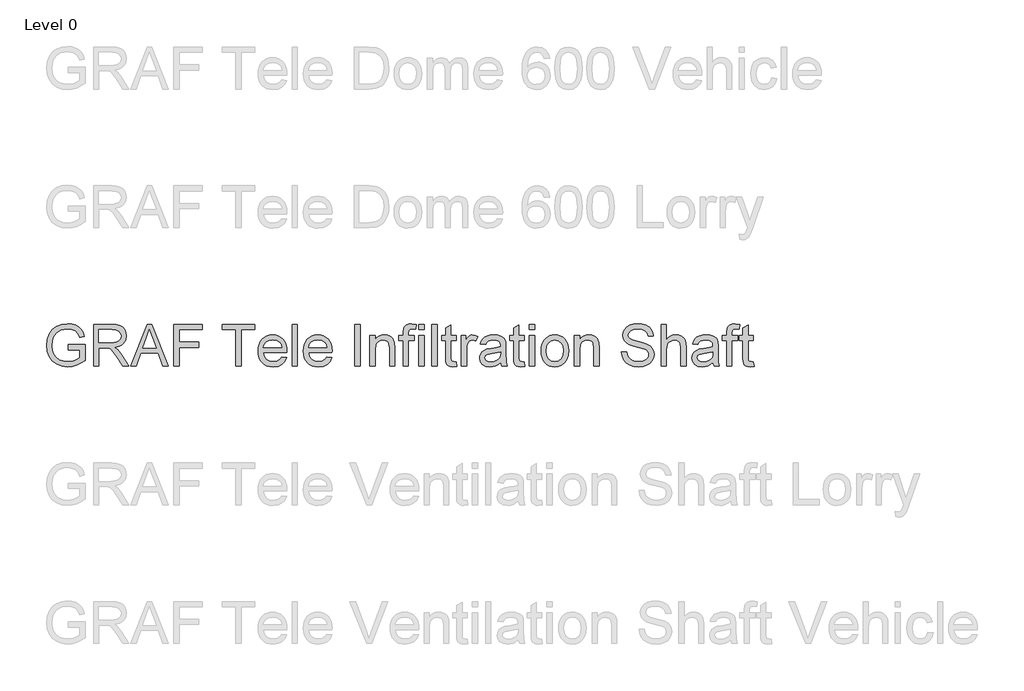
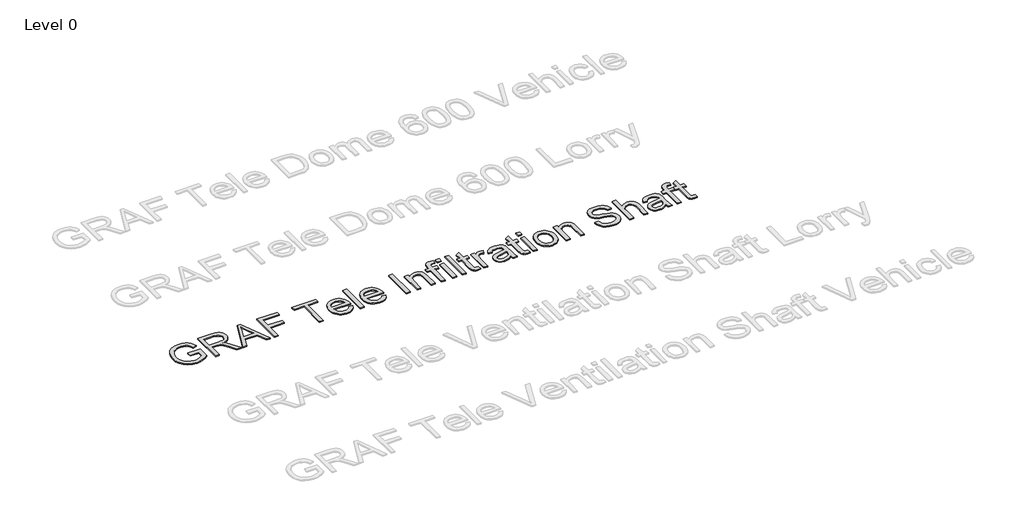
# One storey, part 17 of 25: 1 proxy.
"""IFC4 building model written with IfcOpenShell, lengths in millimetres."""

from ifc_helpers import new_model, si_unit, origin, origin_with_axes, place, context, project, spatial, polyline, outline, extrude, element, save

model = new_model("IFC4")

# Units and contexts
model_context = context("Model", 3, world=origin())
ifc_project = project(units=[si_unit("LENGTHUNIT", "METRE", prefix="MILLI")], contexts=[model_context])

# Site, building, storey
site = spatial("IfcSite", under=ifc_project)
building = spatial("IfcBuilding", under=site)
storey = spatial("IfcBuildingStorey", under=building, Name="Level 0", Elevation=0.0)

# Proxy
placement = place(None, origin())
element("IfcBuildingElementProxy", 1, Name="300mm Arial", ObjectType="300mm Arial", at=placement, inside=storey, context=model_context, shape_type="SweptSolid", body=[
    extrude(outline(polyline([(-15240.9940387, 3916.7454403), (-15240.9940387, 3954.4165566), (-15118.5629107, 3954.4165566), (-15118.5629107, 3841.7710897), (-15148.3153671, 3821.0777274), (-15179.0059225, 3806.2336889), (-15210.5610007, 3797.2941564), (-15242.9070251, 3794.3143123), (-15285.1674693, 3799.050793), (-15323.3628175, 3813.260235), (-15355.0926395, 3836.4459978), (-15377.9565055, 3868.1114405), (-15391.7796715, 3906.0952565), (-15396.3873935, 3948.2361391), (-15391.7980656, 3990.6805243), (-15378.0300819, 4030.1634594), (-15355.6536596, 4063.282036), (-15325.2390156, 4086.6333457), (-15288.1932987, 4100.4841028), (-15245.9236575, 4105.1010218), (-15214.8928112, 4102.4246803), (-15186.9889618, 4094.3956557), (-15163.4904994, 4081.5933623), (-15145.6758138, 4064.5972141), (-15132.4964413, 4042.5886738), (-15122.9039183, 4014.7492038), (-15157.6319786, 4004.9635427), (-15165.3850917, 4024.8199734), (-15174.8120678, 4039.8019677), (-15187.2832674, 4051.0959449), (-15204.169051, 4059.8883246), (-15224.3013932, 4065.5445103), (-15246.5122687, 4067.4299055), (-15272.5123287, 4065.3973575), (-15294.7415982, 4059.2997134), (-15313.1173039, 4049.9003284), (-15327.5566722, 4037.9625577), (-15346.9440533, 4008.9366683), (-15355.7732212, 3980.49939), (-15358.7162772, 3949.7812434), (-15355.175413, 3913.7563991), (-15344.5528204, 3884.1143073), (-15327.1703961, 3861.0665003), (-15303.3500369, 3844.8245102), (-15275.4737787, 3835.195199), (-15245.9236575, 3831.9854286), (-15219.831627, 3834.4042527), (-15194.3833899, 3841.6607251), (-15172.2828791, 3851.6579183), (-15156.234027, 3862.298905), (-15156.234027, 3916.7454403), (-15240.9940387, 3916.7454403)])), origin_with_axes(), (0.0, 0.0, 1.0), 10.0),
    extrude(outline(polyline([(-15057.3473467, 3799.0232018), (-15057.3473467, 4100.3921323), (-14927.4850024, 4100.3921323), (-14892.5821982, 4098.3595842), (-14867.1891434, 4092.2619402), (-14848.6294968, 4081.0047511), (-14834.2269167, 4063.4935682), (-14824.9838815, 4041.7793334), (-14821.9028698, 4017.912989), (-14827.0072325, 3988.2249119), (-14842.3203206, 3963.6136065), (-14853.9200997, 3953.5842236), (-14868.3019865, 3945.5689946), (-14905.4120827, 3935.5809984), (-14884.0013506, 3919.467767), (-14853.467145, 3880.6930048), (-14803.2144645, 3799.0232018), (-14846.9924219, 3799.0232018), (-14886.2086426, 3861.4895646), (-14914.5355562, 3902.8395009), (-14934.4379722, 3922.3740348), (-14952.3538253, 3929.5477337), (-14974.2060158, 3930.8721089), (-15019.6762304, 3930.8721089), (-15019.6762304, 3799.0232018), (-15057.3473467, 3799.0232018)]), holes=[polyline([(-15019.6762304, 3968.5432252), (-14935.3576771, 3968.5432252), (-14911.1418448, 3969.8767974), (-14892.3522719, 3973.8775141), (-14878.2072092, 3980.8120897), (-14867.9249074, 3990.9472387), (-14861.6617165, 4003.2069062), (-14859.5739861, 4016.5150374), (-14863.5563087, 4034.890743), (-14875.5032765, 4049.6979933), (-14896.058683, 4059.4652603), (-14925.8663217, 4062.721016), (-15019.6762304, 4062.721016), (-15019.6762304, 3968.5432252)])]), origin_with_axes(), (0.0, 0.0, 1.0), 10.0),
    extrude(outline(polyline([(-14791.0743586, 3799.0232018), (-14670.7769462, 4100.3921323), (-14638.6976362, 4100.3921323), (-14518.4002238, 3799.0232018), (-14558.2050557, 3799.0232018), (-14592.7123868, 3893.2009926), (-14716.835772, 3893.2009926), (-14751.2695268, 3799.0232018), (-14791.0743586, 3799.0232018)]), holes=[polyline([(-14703.003409, 3930.8721089), (-14606.4711735, 3930.8721089), (-14633.6208647, 4004.9635427), (-14654.7372912, 4062.721016), (-14673.499273, 4011.4382658), (-14703.003409, 3930.8721089)])]), origin_with_axes(), (0.0, 0.0, 1.0), 10.0),
    extrude(outline(polyline([(-14478.1539335, 3799.0232018), (-14478.1539335, 4100.3921323), (-14275.6716834, 4100.3921323), (-14275.6716834, 4062.721016), (-14440.4828172, 4062.721016), (-14440.4828172, 3973.2521147), (-14299.2161311, 3973.2521147), (-14299.2161311, 3935.5809984), (-14440.4828172, 3935.5809984), (-14440.4828172, 3799.0232018), (-14478.1539335, 3799.0232018)])), origin_with_axes(), (0.0, 0.0, 1.0), 10.0),
    extrude(outline(polyline([(-14030.8094274, 3799.0232018), (-14030.8094274, 4062.721016), (-14129.6961077, 4062.721016), (-14129.6961077, 4100.3921323), (-13894.2516308, 4100.3921323), (-13894.2516308, 4062.721016), (-13993.1383111, 4062.721016), (-13993.1383111, 3799.0232018), (-14030.8094274, 3799.0232018)])), origin_with_axes(), (0.0, 0.0, 1.0), 10.0),
    extrude(outline(polyline([(-13701.6286181, 3864.9476554), (-13664.6932658, 3860.2387658), (-13678.001397, 3832.4084929), (-13699.2373851, 3811.6047661), (-13727.9229837, 3798.6369257), (-13763.5799461, 3794.3143123), (-13786.9542484, 3796.1790141), (-13807.7809678, 3801.7731197), (-13826.0601045, 3811.0966291), (-13841.7916583, 3824.1495421), (-13854.4422004, 3840.5685754), (-13863.4783019, 3859.9904455), (-13868.8999628, 3882.4151523), (-13870.7071831, 3907.842696), (-13868.8815687, 3934.1324631), (-13863.4047255, 3957.3044302), (-13854.2766535, 3977.3585975), (-13841.4973527, 3994.2949649), (-13825.8071856, 4007.7502488), (-13807.9465147, 4017.361166), (-13787.9153401, 4023.1277162), (-13765.7136617, 4025.0498997), (-13744.2270539, 4023.1323148), (-13724.7959868, 4017.3795601), (-13707.4204603, 4007.7916356), (-13692.1004744, 3994.3685413), (-13679.5947859, 3977.4689621), (-13670.6621512, 3957.451583), (-13665.3025704, 3934.3164041), (-13663.5160434, 3908.0634252), (-13663.7367726, 3897.9098821), (-13833.0360668, 3897.9098821), (-13826.5153584, 3869.7117272), (-13811.3678173, 3848.9815768), (-13789.5064297, 3836.2344656), (-13762.8441821, 3831.9854286), (-13742.7946134, 3833.9535973), (-13725.9088298, 3839.8581033), (-13712.1868314, 3850.0668287), (-13701.6286181, 3864.9476554)]), holes=[polyline([(-13833.0360668, 3935.5809984), (-13701.1871597, 3935.5809984), (-13706.2823254, 3955.4834144), (-13716.2703215, 3969.7204476), (-13738.2328766, 3982.9641994), (-13765.8608145, 3987.3787834), (-13791.2538692, 3983.8563132), (-13812.2507341, 3973.2889029), (-13826.8464522, 3956.8169866), (-13833.0360668, 3935.5809984)])]), origin_with_axes(), (0.0, 0.0, 1.0), 10.0),
    extrude(outline(polyline([(-13625.8449271, 3799.0232018), (-13625.8449271, 4100.3921323), (-13588.1738108, 4100.3921323), (-13588.1738108, 3799.0232018), (-13625.8449271, 3799.0232018)])), origin_with_axes(), (0.0, 0.0, 1.0), 10.0),
    extrude(outline(polyline([(-13376.71524, 3864.9476554), (-13339.7798877, 3860.2387658), (-13353.0880188, 3832.4084929), (-13374.324007, 3811.6047661), (-13403.0096056, 3798.6369257), (-13438.666568, 3794.3143123), (-13462.0408702, 3796.1790141), (-13482.8675897, 3801.7731197), (-13501.1467263, 3811.0966291), (-13516.8782801, 3824.1495421), (-13529.5288222, 3840.5685754), (-13538.5649238, 3859.9904455), (-13543.9865847, 3882.4151523), (-13545.793805, 3907.842696), (-13543.9681906, 3934.1324631), (-13538.4913474, 3957.3044302), (-13529.3632754, 3977.3585975), (-13516.5839745, 3994.2949649), (-13500.8938074, 4007.7502488), (-13483.0331366, 4017.361166), (-13463.0019619, 4023.1277162), (-13440.8002835, 4025.0498997), (-13419.3136758, 4023.1323148), (-13399.8826086, 4017.3795601), (-13382.5070821, 4007.7916356), (-13367.1870963, 3994.3685413), (-13354.6814077, 3977.4689621), (-13345.748773, 3957.451583), (-13340.3891922, 3934.3164041), (-13338.6026653, 3908.0634252), (-13338.8233945, 3897.9098821), (-13508.1226887, 3897.9098821), (-13501.6019803, 3869.7117272), (-13486.4544391, 3848.9815768), (-13464.5930516, 3836.2344656), (-13437.930804, 3831.9854286), (-13417.8812352, 3833.9535973), (-13400.9954517, 3839.8581033), (-13387.2734532, 3850.0668287), (-13376.71524, 3864.9476554)]), holes=[polyline([(-13508.1226887, 3935.5809984), (-13376.2737816, 3935.5809984), (-13381.3689472, 3955.4834144), (-13391.3569434, 3969.7204476), (-13413.3194985, 3982.9641994), (-13440.9474363, 3987.3787834), (-13466.3404911, 3983.8563132), (-13487.3373559, 3973.2889029), (-13501.9330741, 3956.8169866), (-13508.1226887, 3935.5809984)])]), origin_with_axes(), (0.0, 0.0, 1.0), 10.0),
    extrude(outline(polyline([(-13173.7915314, 3799.0232018), (-13173.7915314, 4100.3921323), (-13136.1204151, 4100.3921323), (-13136.1204151, 3799.0232018), (-13173.7915314, 3799.0232018)])), origin_with_axes(), (0.0, 0.0, 1.0), 10.0),
    extrude(outline(polyline([(-13065.4870721, 3799.0232018), (-13065.4870721, 4020.3410101), (-13027.8159558, 4020.3410101), (-13027.8159558, 3989.4389225), (-13014.7285538, 4005.018725), (-12999.0107955, 4016.1471554), (-12980.662681, 4022.8242136), (-12959.6842102, 4025.0498997), (-12941.1153665, 4023.2564749), (-12924.1100213, 4017.8762008), (-12909.9281704, 4009.5804618), (-12899.8298096, 3999.0406426), (-12888.5358324, 3971.3391284), (-12886.5492696, 3934.9188108), (-12886.5492696, 3799.0232018), (-12924.2203859, 3799.0232018), (-12924.2203859, 3929.8420393), (-12928.5613935, 3963.1721481), (-12934.567067, 3973.0957649), (-12943.9020727, 3980.7936956), (-12955.8674345, 3985.7325114), (-12969.7641769, 3987.3787834), (-12991.8278996, 3983.6815693), (-13010.6358666, 3972.5899271), (-13018.1521556, 3963.5354315), (-13023.5209335, 3951.1608009), (-13027.8159558, 3916.4511347), (-13027.8159558, 3799.0232018), (-13065.4870721, 3799.0232018)])), origin_with_axes(), (0.0, 0.0, 1.0), 10.0),
    extrude(outline(polyline([(-12825.3337056, 3799.0232018), (-12825.3337056, 3982.6698938), (-12858.2959324, 3982.6698938), (-12858.2959324, 4020.3410101), (-12825.3337056, 4020.3410101), (-12825.3337056, 4042.634659), (-12821.3605801, 4074.0517814), (-12813.782211, 4086.5781634), (-12802.0835635, 4096.4925831), (-12785.7128147, 4102.9489121), (-12764.1181416, 4105.1010218), (-12729.7579633, 4100.9807435), (-12735.2761932, 4065.6640719), (-12756.9812309, 4067.4299055), (-12771.3010376, 4065.866407), (-12780.7096196, 4061.1759116), (-12785.9243469, 4052.217985), (-12787.6625893, 4037.8521931), (-12787.6625893, 4020.3410101), (-12745.2825835, 4020.3410101), (-12745.2825835, 3982.6698938), (-12787.6625893, 3982.6698938), (-12787.6625893, 3799.0232018), (-12825.3337056, 3799.0232018)])), origin_with_axes(), (0.0, 0.0, 1.0), 10.0),
    extrude(outline(polyline([(-12712.3203567, 4062.721016), (-12712.3203567, 4100.3921323), (-12674.6492404, 4100.3921323), (-12674.6492404, 4062.721016), (-12712.3203567, 4062.721016)])), origin_with_axes(), (0.0, 0.0, 1.0), 10.0),
    extrude(outline(polyline([(-12712.3203567, 3799.0232018), (-12712.3203567, 4020.3410101), (-12674.6492404, 4020.3410101), (-12674.6492404, 3799.0232018), (-12712.3203567, 3799.0232018)])), origin_with_axes(), (0.0, 0.0, 1.0), 10.0),
    extrude(outline(polyline([(-12618.1425659, 3799.0232018), (-12618.1425659, 4100.3921323), (-12580.4714496, 4100.3921323), (-12580.4714496, 3799.0232018), (-12618.1425659, 3799.0232018)])), origin_with_axes(), (0.0, 0.0, 1.0), 10.0),
    extrude(outline(polyline([(-12443.913653, 3830.4403242), (-12439.2047635, 3797.9195558), (-12467.3845243, 3794.3143123), (-12485.4659244, 3795.8778108), (-12498.9487995, 3800.5683062), (-12508.4769432, 3807.7971874), (-12514.6941489, 3816.9758432), (-12518.1154514, 3832.7395867), (-12519.2558856, 3859.723731), (-12519.2558856, 3982.6698938), (-12547.5092228, 3982.6698938), (-12547.5092228, 4020.3410101), (-12519.2558856, 4020.3410101), (-12519.2558856, 4074.1253578), (-12481.5847693, 4096.2718539), (-12481.5847693, 4020.3410101), (-12443.913653, 4020.3410101), (-12443.913653, 3982.6698938), (-12481.5847693, 3982.6698938), (-12481.5847693, 3860.827377), (-12479.5982065, 3841.4032077), (-12473.1602716, 3834.5238144), (-12460.32119, 3831.9854286), (-12443.913653, 3830.4403242)])), origin_with_axes(), (0.0, 0.0, 1.0), 10.0),
    extrude(outline(polyline([(-12406.2425367, 3799.0232018), (-12406.2425367, 4020.3410101), (-12373.2803099, 4020.3410101), (-12373.2803099, 3987.5995125), (-12361.1034159, 4006.5822235), (-12349.883015, 4017.7658362), (-12338.625826, 4023.2288838), (-12326.3385673, 4025.0498997), (-12307.5765856, 4022.1436319), (-12288.5202982, 4013.4248286), (-12301.1018625, 3979.6532615), (-12314.3456143, 3985.4474029), (-12327.5893661, 3987.3787834), (-12338.8373581, 3985.5209793), (-12348.8897337, 3979.947567), (-12357.0107287, 3971.081611), (-12362.4645793, 3959.3461753), (-12367.0447101, 3938.3033252), (-12368.5714204, 3915.3474887), (-12368.5714204, 3799.0232018), (-12406.2425367, 3799.0232018)])), origin_with_axes(), (0.0, 0.0, 1.0), 10.0),
    extrude(outline(polyline([(-12123.7091644, 3827.2765391), (-12141.707791, 3811.8438894), (-12160.2398465, 3801.7455286), (-12179.7283952, 3796.1721164), (-12200.5965014, 3794.3143123), (-12232.0780031, 3798.7840785), (-12255.3005541, 3812.1933772), (-12269.6203607, 3832.5556457), (-12274.3936296, 3857.8843211), (-12272.5910079, 3873.5009117), (-12267.1831425, 3887.6827627), (-12258.8414183, 3899.8228685), (-12248.2372198, 3909.314224), (-12221.8600807, 3921.675059), (-12189.2657359, 3927.3404417), (-12150.7484911, 3933.3001301), (-12123.9298936, 3940.289888), (-12123.7091644, 3948.6775975), (-12126.3027325, 3965.4898046), (-12134.0834367, 3976.4894763), (-12151.484255, 3984.6564566), (-12175.7276785, 3987.3787834), (-12198.1684802, 3985.5669645), (-12213.8402532, 3980.131508), (-12224.5272252, 3970.0791325), (-12232.0136238, 3954.4165566), (-12269.6847401, 3959.1254461), (-12263.1456376, 3979.7268379), (-12253.3875677, 3995.9136456), (-12239.5000224, 4008.2928748), (-12220.5724937, 4017.4715306), (-12197.4235192, 4023.1553074), (-12170.8716362, 4025.0498997), (-12145.4050051, 4023.3760366), (-12125.2174806, 4018.3544473), (-12109.996363, 4010.8036694), (-12099.4289527, 4001.5422402), (-12092.4208007, 3990.0919131), (-12087.8774581, 3975.9744415), (-12086.0380481, 3943.0122147), (-12086.0380481, 3896.1440485), (-12084.1250617, 3830.6978416), (-12076.620269, 3799.0232018), (-12114.2913853, 3799.0232018), (-12123.7091644, 3827.2765391)]), holes=[polyline([(-12123.7091644, 3902.6187717), (-12184.48327, 3891.067277), (-12216.8936738, 3884.9604359), (-12231.5721654, 3875.027622), (-12236.7225133, 3860.5330714), (-12233.9174131, 3849.3310647), (-12225.5021125, 3840.1524089), (-12211.6605524, 3834.0271737), (-12192.5766739, 3831.9854286), (-12172.3431642, 3834.2387058), (-12154.4640992, 3840.9985375), (-12139.9695486, 3850.9589425), (-12129.8895819, 3862.8139398), (-12125.4198157, 3875.027622), (-12123.9298936, 3891.9501938), (-12123.7091644, 3902.6187717)])]), origin_with_axes(), (0.0, 0.0, 1.0), 10.0),
    extrude(outline(polyline([(-11954.189141, 3830.4403242), (-11949.4802515, 3797.9195558), (-11977.6600123, 3794.3143123), (-11995.7414124, 3795.8778108), (-12009.2242875, 3800.5683062), (-12018.7524312, 3807.7971874), (-12024.9696369, 3816.9758432), (-12028.3909395, 3832.7395867), (-12029.5313736, 3859.723731), (-12029.5313736, 3982.6698938), (-12057.7847109, 3982.6698938), (-12057.7847109, 4020.3410101), (-12029.5313736, 4020.3410101), (-12029.5313736, 4074.1253578), (-11991.8602573, 4096.2718539), (-11991.8602573, 4020.3410101), (-11954.189141, 4020.3410101), (-11954.189141, 3982.6698938), (-11991.8602573, 3982.6698938), (-11991.8602573, 3860.827377), (-11989.8736946, 3841.4032077), (-11983.4357596, 3834.5238144), (-11970.596678, 3831.9854286), (-11954.189141, 3830.4403242)])), origin_with_axes(), (0.0, 0.0, 1.0), 10.0),
    extrude(outline(polyline([(-11916.5180247, 4062.721016), (-11916.5180247, 4100.3921323), (-11878.8469084, 4100.3921323), (-11878.8469084, 4062.721016), (-11916.5180247, 4062.721016)])), origin_with_axes(), (0.0, 0.0, 1.0), 10.0),
    extrude(outline(polyline([(-11916.5180247, 3799.0232018), (-11916.5180247, 4020.3410101), (-11878.8469084, 4020.3410101), (-11878.8469084, 3799.0232018), (-11916.5180247, 3799.0232018)])), origin_with_axes(), (0.0, 0.0, 1.0), 10.0),
    extrude(outline(polyline([(-11831.758013, 3909.682106), (-11829.7208665, 3938.3447119), (-11823.6094268, 3963.0433894), (-11813.4236941, 3983.7781383), (-11799.1636683, 4000.5489588), (-11784.8070734, 4011.2681204), (-11768.9605565, 4018.9246644), (-11751.6241174, 4023.5185909), (-11732.7977563, 4025.0498997), (-11712.0147229, 4023.1851978), (-11693.2228507, 4017.5910922), (-11676.4221398, 4008.2675829), (-11661.6125903, 3995.2146698), (-11649.5253675, 3978.8738115), (-11640.8916369, 3959.6864662), (-11635.7113985, 3937.6526339), (-11633.9846524, 3912.7723147), (-11637.038073, 3874.7149223), (-11646.1983347, 3845.7442152), (-11661.198723, 3824.0483745), (-11681.7725236, 3807.8155815), (-11706.2090851, 3797.6896296), (-11732.7977563, 3794.3143123), (-11753.8842924, 3796.1721164), (-11772.8509086, 3801.7455286), (-11789.6976047, 3811.034549), (-11804.4243808, 3824.0391775), (-11816.3828449, 3840.538685), (-11824.924605, 3860.3123422), (-11830.049661, 3883.3601492), (-11831.758013, 3909.682106)]), holes=[polyline([(-11794.0868967, 3909.7556824), (-11789.7274951, 3875.6622185), (-11776.6492902, 3851.3728097), (-11756.9676034, 3836.8322739), (-11732.7977563, 3831.9854286), (-11708.7382738, 3836.859865), (-11689.0933753, 3851.4831743), (-11676.0151704, 3876.0944798), (-11671.6557687, 3910.9329048), (-11676.0427615, 3944.0330873), (-11689.2037399, 3967.9914022), (-11708.8762296, 3982.5319381), (-11732.7977563, 3987.3787834), (-11756.9676034, 3982.5503322), (-11776.6492902, 3968.0649786), (-11789.7274951, 3943.8307522), (-11794.0868967, 3909.7556824)])]), origin_with_axes(), (0.0, 0.0, 1.0), 10.0),
    extrude(outline(polyline([(-11591.6046466, 3799.0232018), (-11591.6046466, 4020.3410101), (-11553.9335303, 4020.3410101), (-11553.9335303, 3989.4389225), (-11540.8461283, 4005.018725), (-11525.1283701, 4016.1471554), (-11506.7802555, 4022.8242136), (-11485.8017848, 4025.0498997), (-11467.2329411, 4023.2564749), (-11450.2275958, 4017.8762008), (-11436.0457449, 4009.5804618), (-11425.9473842, 3999.0406426), (-11414.6534069, 3971.3391284), (-11412.6668441, 3934.9188108), (-11412.6668441, 3799.0232018), (-11450.3379604, 3799.0232018), (-11450.3379604, 3929.8420393), (-11454.678968, 3963.1721481), (-11460.6846415, 3973.0957649), (-11470.0196472, 3980.7936956), (-11481.9850091, 3985.7325114), (-11495.8817514, 3987.3787834), (-11517.9454741, 3983.6815693), (-11536.7534411, 3972.5899271), (-11544.2697301, 3963.5354315), (-11549.638508, 3951.1608009), (-11553.9335303, 3916.4511347), (-11553.9335303, 3799.0232018), (-11591.6046466, 3799.0232018)])), origin_with_axes(), (0.0, 0.0, 1.0), 10.0),
    extrude(outline(polyline([(-11252.5645998, 3902.6187717), (-11214.8934835, 3902.6187717), (-11210.5708701, 3881.7138773), (-11202.7533777, 3864.9108672), (-11190.5580895, 3851.5751448), (-11173.1020889, 3841.0721139), (-11151.7649331, 3834.2570999), (-11127.9261799, 3831.9854286), (-11106.938512, 3833.7052769), (-11088.5628064, 3838.8648219), (-11073.6727826, 3847.0318022), (-11063.1421605, 3857.7739565), (-11056.8789695, 3870.1072003), (-11054.7912392, 3883.0474495), (-11056.3547377, 3895.6566049), (-11061.0452331, 3906.555109), (-11070.5733768, 3915.8533264), (-11086.64982, 3923.6616218), (-11141.5010255, 3938.0458078), (-11177.5074758, 3947.5647544), (-11200.5460857, 3956.6238486), (-11219.2988704, 3969.2973833), (-11232.5886075, 3984.6564566), (-11240.5072674, 4002.3699747), (-11243.1468208, 4022.1068437), (-11239.881868, 4044.1705664), (-11230.0870099, 4064.7443669), (-11214.0197638, 4082.1819735), (-11191.937647, 4094.8371141), (-11165.4317493, 4102.5350449), (-11136.0931602, 4105.1010218), (-11104.3081558, 4102.4154832), (-11076.4962769, 4094.3588675), (-11053.650805, 4081.0967216), (-11036.7650215, 4062.7945924), (-11026.0780495, 4040.592914), (-11021.8290125, 4015.6321206), (-11059.5001288, 4015.6321206), (-11066.4163103, 4038.1097105), (-11080.8372845, 4054.3333065), (-11103.3700567, 4064.1557557), (-11134.6216322, 4067.4299055), (-11166.6089717, 4064.1925439), (-11188.5531327, 4054.4804593), (-11201.2450615, 4040.1882438), (-11205.4757044, 4023.2104897), (-11202.4774662, 4008.7343332), (-11193.4827514, 3997.090868), (-11172.2191721, 3986.6798076), (-11131.9728818, 3976.0480179), (-11090.4390046, 3965.9496571), (-11065.3126643, 3957.1388833), (-11043.8375528, 3943.4720672), (-11028.8555586, 3926.6046777), (-11020.0539818, 3906.7206559), (-11017.1201229, 3884.0039427), (-11020.4954402, 3860.7813918), (-11030.6213921, 3838.9383983), (-11047.0841114, 3820.1396283), (-11069.4697308, 3806.0497479), (-11096.3894958, 3797.2481712), (-11126.4546519, 3794.3143123), (-11163.362413, 3797.4780974), (-11193.7402688, 3806.9694529), (-11217.937707, 3822.8251669), (-11236.3042156, 3845.0820276), (-11248.0948336, 3872.1949307), (-11252.5645998, 3902.6187717)])), origin_with_axes(), (0.0, 0.0, 1.0), 10.0),
    extrude(outline(polyline([(-10965.322338, 3799.0232018), (-10965.322338, 4100.3921323), (-10927.6512217, 4100.3921323), (-10927.6512217, 3989.5860753), (-10913.8142601, 4005.1014985), (-10898.2758444, 4016.1839436), (-10881.0359744, 4022.8334106), (-10862.0946501, 4025.0498997), (-10839.3411487, 4022.6310755), (-10819.7882207, 4015.3746032), (-10804.3923592, 4003.8506997), (-10794.1100574, 3988.6295821), (-10788.315916, 3967.7154907), (-10786.3845355, 3939.1126656), (-10786.3845355, 3799.0232018), (-10824.0556518, 3799.0232018), (-10824.0556518, 3935.2131164), (-10827.0538901, 3958.7943523), (-10836.0486049, 3974.9443719), (-10850.5431555, 3984.2701805), (-10870.0409012, 3987.3787834), (-10885.9609946, 3985.281856), (-10900.9062006, 3978.9910739), (-10913.2854298, 3969.1134423), (-10921.5075924, 3956.2559666), (-10926.1153144, 3939.1678479), (-10927.6512217, 3916.5982875), (-10927.6512217, 3799.0232018), (-10965.322338, 3799.0232018)])), origin_with_axes(), (0.0, 0.0, 1.0), 10.0),
    extrude(outline(polyline([(-10593.3200645, 3827.2765391), (-10611.3186911, 3811.8438894), (-10629.8507466, 3801.7455286), (-10649.3392953, 3796.1721164), (-10670.2074015, 3794.3143123), (-10701.6889032, 3798.7840785), (-10724.9114541, 3812.1933772), (-10739.2312608, 3832.5556457), (-10744.0045297, 3857.8843211), (-10742.2019079, 3873.5009117), (-10736.7940426, 3887.6827627), (-10728.4523183, 3899.8228685), (-10717.8481198, 3909.314224), (-10691.4709808, 3921.675059), (-10658.876636, 3927.3404417), (-10620.3593911, 3933.3001301), (-10593.5407937, 3940.289888), (-10593.3200645, 3948.6775975), (-10595.9136325, 3965.4898046), (-10603.6943367, 3976.4894763), (-10621.0951551, 3984.6564566), (-10645.3385786, 3987.3787834), (-10667.7793803, 3985.5669645), (-10683.4511533, 3980.131508), (-10694.1381252, 3970.0791325), (-10701.6245239, 3954.4165566), (-10739.2956402, 3959.1254461), (-10732.7565377, 3979.7268379), (-10722.9984678, 3995.9136456), (-10709.1109225, 4008.2928748), (-10690.1833938, 4017.4715306), (-10667.0344193, 4023.1553074), (-10640.4825363, 4025.0498997), (-10615.0159051, 4023.3760366), (-10594.8283807, 4018.3544473), (-10579.6072631, 4010.8036694), (-10569.0398528, 4001.5422402), (-10562.0317008, 3990.0919131), (-10557.4883581, 3975.9744415), (-10555.6489482, 3943.0122147), (-10555.6489482, 3896.1440485), (-10553.7359618, 3830.6978416), (-10546.2311691, 3799.0232018), (-10583.9022854, 3799.0232018), (-10593.3200645, 3827.2765391)]), holes=[polyline([(-10593.3200645, 3902.6187717), (-10654.0941701, 3891.067277), (-10686.5045738, 3884.9604359), (-10701.1830655, 3875.027622), (-10706.3334134, 3860.5330714), (-10703.5283132, 3849.3310647), (-10695.1130125, 3840.1524089), (-10681.2714525, 3834.0271737), (-10662.187574, 3831.9854286), (-10641.9540642, 3834.2387058), (-10624.0749993, 3840.9985375), (-10609.5804487, 3850.9589425), (-10599.500482, 3862.8139398), (-10595.0307157, 3875.027622), (-10593.5407937, 3891.9501938), (-10593.3200645, 3902.6187717)])]), origin_with_axes(), (0.0, 0.0, 1.0), 10.0),
    extrude(outline(polyline([(-10494.4333842, 3799.0232018), (-10494.4333842, 3982.6698938), (-10527.3956109, 3982.6698938), (-10527.3956109, 4020.3410101), (-10494.4333842, 4020.3410101), (-10494.4333842, 4042.634659), (-10490.4602586, 4074.0517814), (-10482.8818895, 4086.5781634), (-10471.1832421, 4096.4925831), (-10454.8124933, 4102.9489121), (-10433.2178202, 4105.1010218), (-10398.8576418, 4100.9807435), (-10404.3758717, 4065.6640719), (-10426.0809095, 4067.4299055), (-10440.4007161, 4065.866407), (-10449.8092982, 4061.1759116), (-10455.0240254, 4052.217985), (-10456.7622679, 4037.8521931), (-10456.7622679, 4020.3410101), (-10414.382262, 4020.3410101), (-10414.382262, 3982.6698938), (-10456.7622679, 3982.6698938), (-10456.7622679, 3799.0232018), (-10494.4333842, 3799.0232018)])), origin_with_axes(), (0.0, 0.0, 1.0), 10.0),
    extrude(outline(polyline([(-10301.3689131, 3830.4403242), (-10296.6600236, 3797.9195558), (-10324.8397844, 3794.3143123), (-10342.9211845, 3795.8778108), (-10356.4040596, 3800.5683062), (-10365.9322033, 3807.7971874), (-10372.149409, 3816.9758432), (-10375.5707115, 3832.7395867), (-10376.7111457, 3859.723731), (-10376.7111457, 3982.6698938), (-10404.9644829, 3982.6698938), (-10404.9644829, 4020.3410101), (-10376.7111457, 4020.3410101), (-10376.7111457, 4074.1253578), (-10339.0400294, 4096.2718539), (-10339.0400294, 4020.3410101), (-10301.3689131, 4020.3410101), (-10301.3689131, 3982.6698938), (-10339.0400294, 3982.6698938), (-10339.0400294, 3860.827377), (-10337.0534666, 3841.4032077), (-10330.6155317, 3834.5238144), (-10317.7764501, 3831.9854286), (-10301.3689131, 3830.4403242)])), origin_with_axes(), (0.0, 0.0, 1.0), 10.0),
])

save(model, "model.ifc")
